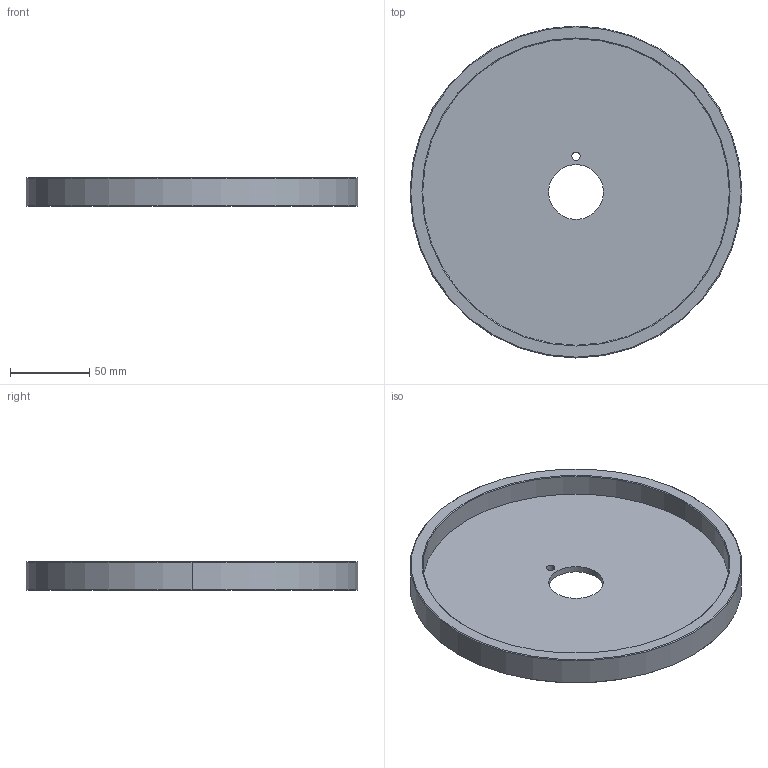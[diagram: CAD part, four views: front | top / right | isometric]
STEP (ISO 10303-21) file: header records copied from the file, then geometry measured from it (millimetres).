
FILE_DESCRIPTION (( 'STEP AP214' ), '1' );
FILE_NAME ('PD007302..step', '2024-11-22T13:16:32', ( '' ), ( '' ), 'SwSTEP 2.0', 'SolidWorks 2023', '' );
FILE_SCHEMA (( 'AUTOMOTIVE_DESIGN' ));
Length unit declared in the file: millimetre
Products named in the file (1): PD007302.
Bounding box: 209 x 209 x 18 mm (x, y, z)
Volume: 203887.4 mm3; surface area: 86945.4 mm2
Topology: 1 solids, 1 shells, 17 faces, 36 edges, 22 vertices
Faces by surface type: cylinder 8, cone 6, plane 3
Entity records: 495 total; most frequent: DIRECTION 94, CARTESIAN_POINT 76, ORIENTED_EDGE 72, AXIS2_PLACEMENT_3D 40, EDGE_CURVE 36, VERTEX_POINT 22, CIRCLE 22, EDGE_LOOP 22
